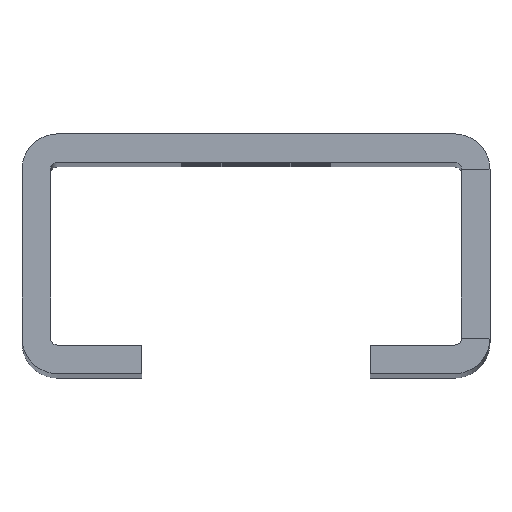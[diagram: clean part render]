
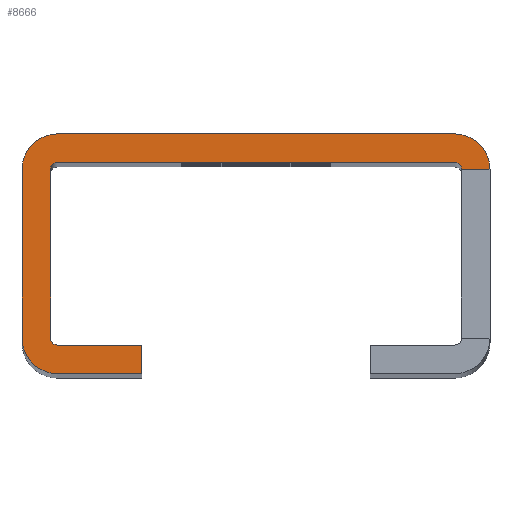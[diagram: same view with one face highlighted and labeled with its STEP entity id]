
A CAD part, top view. The second image highlights one B-rep face of the part: STEP entity #8666.
In plain terms, the highlighted planar face has unit normal (0, 0, 1).
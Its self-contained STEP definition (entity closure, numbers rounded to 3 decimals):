
#526=CARTESIAN_POINT(' ',(-18.,-7.4,112.5));
#527=VERTEX_POINT(' ',#526);
#2251=CARTESIAN_POINT(' ',(-20.5,-7.4,112.5));
#2252=VERTEX_POINT(' ',#2251);
#4101=CARTESIAN_POINT(' ',(-20.5,-7.4,112.5));
#4106=DIRECTION(' ',(1.,0.,0.));
#4111=VECTOR(' ',#4106,1.);
#4116=LINE('',#4101,#4111);
#4121=EDGE_CURVE(' ',#2252,#527,#4116,.T.);
#4251=CARTESIAN_POINT(' ',(-17.4,-7.4,112.5));
#4256=DIRECTION(' ',(0.,0.,-1.));
#4261=DIRECTION(' ',(0.,-1.,0.));
#4266=AXIS2_PLACEMENT_3D(' ',#4251,#4256,#4261);
#4271=CIRCLE('',#4266,0.6);
#4276=CARTESIAN_POINT(' ',(-17.4,-8.,112.5));
#4277=VERTEX_POINT(' ',#4276);
#4281=EDGE_CURVE(' ',#4277,#527,#4271,.T.);
#7141=CARTESIAN_POINT(' ',(-17.4,-10.5,112.5));
#7142=VERTEX_POINT(' ',#7141);
#7156=CARTESIAN_POINT(' ',(-17.401,-7.401,112.5));
#7161=DIRECTION(' ',(0.,0.,-1.));
#7166=DIRECTION(' ',(0.,-1.,0.));
#7171=AXIS2_PLACEMENT_3D(' ',#7156,#7161,#7166);
#7176=CIRCLE('',#7171,3.099);
#7181=EDGE_CURVE(' ',#7142,#2252,#7176,.T.);
#8216=DIRECTION(' ',(-0.,-0.,1.));
#8221=CARTESIAN_POINT(' ',(-15.655,-22.166,112.5));
#8226=DIRECTION(' ',(0.945,0.328,0.));
#8231=AXIS2_PLACEMENT_3D(' ',#8221,#8216,#8226);
#8236=PLANE('',#8231);
#8241=ORIENTED_EDGE(' ',*,*,#4121,.F.);
#8246=ORIENTED_EDGE(' ',*,*,#7181,.F.);
#8251=CARTESIAN_POINT(' ',(17.4,-10.5,112.5));
#8256=DIRECTION(' ',(-1.,0.,0.));
#8261=VECTOR(' ',#8256,1.);
#8266=LINE('',#8251,#8261);
#8271=CARTESIAN_POINT(' ',(17.4,-10.5,112.5));
#8272=VERTEX_POINT(' ',#8271);
#8276=EDGE_CURVE(' ',#8272,#7142,#8266,.T.);
#8281=ORIENTED_EDGE(' ',*,*,#8276,.F.);
#8286=CARTESIAN_POINT(' ',(17.401,-7.401,112.5));
#8291=DIRECTION(' ',(-0.,0.,-1.));
#8296=DIRECTION(' ',(1.,0.,0.));
#8301=AXIS2_PLACEMENT_3D(' ',#8286,#8291,#8296);
#8306=CIRCLE('',#8301,3.099);
#8311=CARTESIAN_POINT(' ',(20.5,-7.4,112.5));
#8312=VERTEX_POINT(' ',#8311);
#8316=EDGE_CURVE(' ',#8312,#8272,#8306,.T.);
#8321=ORIENTED_EDGE(' ',*,*,#8316,.F.);
#8326=CARTESIAN_POINT(' ',(20.5,7.4,112.5));
#8331=DIRECTION(' ',(0.,-1.,0.));
#8336=VECTOR(' ',#8331,1.);
#8341=LINE('',#8326,#8336);
#8346=CARTESIAN_POINT(' ',(20.5,7.4,112.5));
#8347=VERTEX_POINT(' ',#8346);
#8351=EDGE_CURVE(' ',#8347,#8312,#8341,.T.);
#8356=ORIENTED_EDGE(' ',*,*,#8351,.F.);
#8361=CARTESIAN_POINT(' ',(17.401,7.401,112.5));
#8366=DIRECTION(' ',(-0.,-0.,-1.));
#8371=DIRECTION(' ',(0.,1.,0.));
#8376=AXIS2_PLACEMENT_3D(' ',#8361,#8366,#8371);
#8381=CIRCLE('',#8376,3.099);
#8386=CARTESIAN_POINT(' ',(17.4,10.5,112.5));
#8387=VERTEX_POINT(' ',#8386);
#8391=EDGE_CURVE(' ',#8387,#8347,#8381,.T.);
#8396=ORIENTED_EDGE(' ',*,*,#8391,.F.);
#8401=CARTESIAN_POINT(' ',(10.,10.5,112.5));
#8406=DIRECTION(' ',(1.,0.,0.));
#8411=VECTOR(' ',#8406,1.);
#8416=LINE('',#8401,#8411);
#8421=CARTESIAN_POINT(' ',(10.,10.5,112.5));
#8422=VERTEX_POINT(' ',#8421);
#8426=EDGE_CURVE(' ',#8422,#8387,#8416,.T.);
#8431=ORIENTED_EDGE(' ',*,*,#8426,.F.);
#8436=CARTESIAN_POINT(' ',(10.,8.,112.5));
#8441=DIRECTION(' ',(0.,1.,0.));
#8446=VECTOR(' ',#8441,1.);
#8451=LINE('',#8436,#8446);
#8456=CARTESIAN_POINT(' ',(10.,8.,112.5));
#8457=VERTEX_POINT(' ',#8456);
#8461=EDGE_CURVE(' ',#8457,#8422,#8451,.T.);
#8466=ORIENTED_EDGE(' ',*,*,#8461,.F.);
#8471=CARTESIAN_POINT(' ',(10.,8.,112.5));
#8476=DIRECTION(' ',(1.,0.,0.));
#8481=VECTOR(' ',#8476,1.);
#8486=LINE('',#8471,#8481);
#8491=CARTESIAN_POINT(' ',(17.4,8.,112.5));
#8492=VERTEX_POINT(' ',#8491);
#8496=EDGE_CURVE(' ',#8457,#8492,#8486,.T.);
#8501=ORIENTED_EDGE(' ',*,*,#8496,.T.);
#8506=CARTESIAN_POINT(' ',(17.4,7.4,112.5));
#8511=DIRECTION(' ',(-0.,-0.,-1.));
#8516=DIRECTION(' ',(0.,1.,0.));
#8521=AXIS2_PLACEMENT_3D(' ',#8506,#8511,#8516);
#8526=CIRCLE('',#8521,0.6);
#8531=CARTESIAN_POINT(' ',(18.,7.4,112.5));
#8532=VERTEX_POINT(' ',#8531);
#8536=EDGE_CURVE(' ',#8492,#8532,#8526,.T.);
#8541=ORIENTED_EDGE(' ',*,*,#8536,.T.);
#8546=CARTESIAN_POINT(' ',(18.,7.4,112.5));
#8551=DIRECTION(' ',(0.,-1.,0.));
#8556=VECTOR(' ',#8551,1.);
#8561=LINE('',#8546,#8556);
#8566=CARTESIAN_POINT(' ',(18.,-7.4,112.5));
#8567=VERTEX_POINT(' ',#8566);
#8571=EDGE_CURVE(' ',#8532,#8567,#8561,.T.);
#8576=ORIENTED_EDGE(' ',*,*,#8571,.T.);
#8581=CARTESIAN_POINT(' ',(17.4,-7.4,112.5));
#8586=DIRECTION(' ',(-0.,0.,-1.));
#8591=DIRECTION(' ',(1.,0.,0.));
#8596=AXIS2_PLACEMENT_3D(' ',#8581,#8586,#8591);
#8601=CIRCLE('',#8596,0.6);
#8606=CARTESIAN_POINT(' ',(17.4,-8.,112.5));
#8607=VERTEX_POINT(' ',#8606);
#8611=EDGE_CURVE(' ',#8567,#8607,#8601,.T.);
#8616=ORIENTED_EDGE(' ',*,*,#8611,.T.);
#8621=CARTESIAN_POINT(' ',(17.4,-8.,112.5));
#8626=DIRECTION(' ',(-1.,0.,0.));
#8631=VECTOR(' ',#8626,1.);
#8636=LINE('',#8621,#8631);
#8641=EDGE_CURVE(' ',#8607,#4277,#8636,.T.);
#8646=ORIENTED_EDGE(' ',*,*,#8641,.T.);
#8651=ORIENTED_EDGE(' ',*,*,#4281,.T.);
#8656=EDGE_LOOP(' ',(#8241,#8246,#8281,#8321,#8356,#8396,#8431,#8466,#8501,#8541,#8576,#8616,#8646,#8651));
#8661=FACE_OUTER_BOUND(' ',#8656,.T.);
#8666=ADVANCED_FACE('',(#8661),#8236,.T.);
